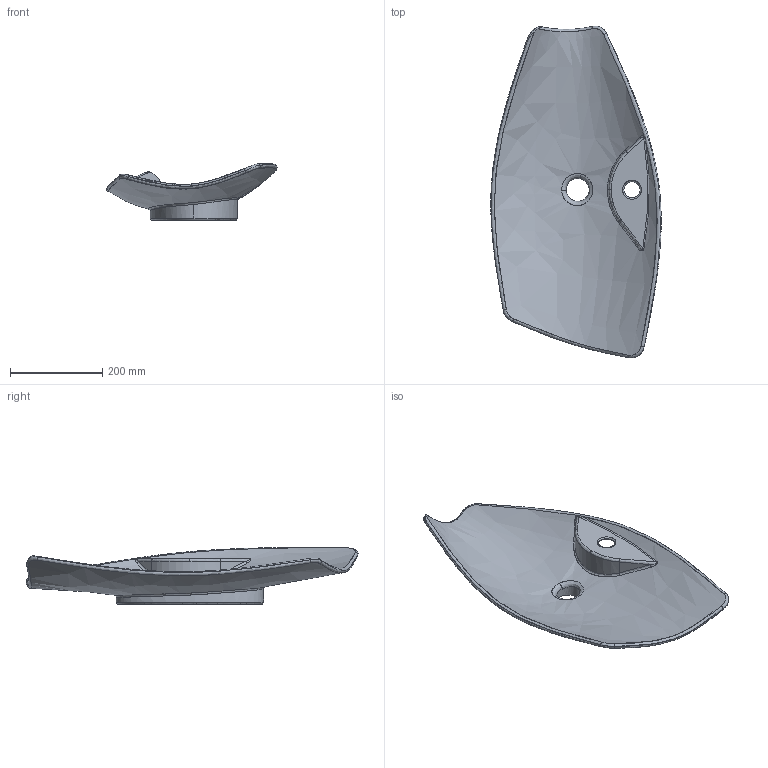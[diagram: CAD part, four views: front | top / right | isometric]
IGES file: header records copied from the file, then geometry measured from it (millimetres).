
Start section: C
Global section: file name: Kong 70-R.igs; native system:  By UGS Corp.; preprocessor: XPlus GENERIC/IGES 3.0; author: Author; organization: Title; date: 20120323.142310; units: millimetre
Bounding box: 370.01 x 721 x 123.47 mm (x, y, z)
Surface area: 531890.7 mm2 (no closed solid volume)
Topology: 0 solids, 0 shells, 65 faces, 314 edges, 312 vertices
Faces by surface type: bspline 65
